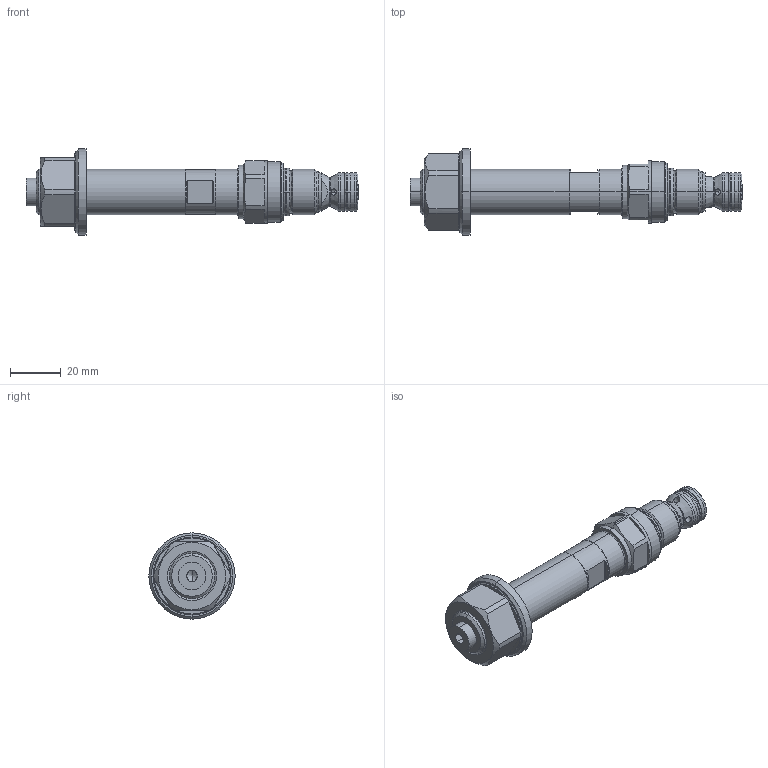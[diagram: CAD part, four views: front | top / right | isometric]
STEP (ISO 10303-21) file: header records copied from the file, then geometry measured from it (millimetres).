
FILE_DESCRIPTION (( 'STEP AP214' ), '1' );
FILE_NAME ('SDYPM18-BA-X5.STEP', '2017-03-07T14:49:52', ( '' ), ( '' ), 'SwSTEP 2.0', 'SolidWorks 2016', '' );
FILE_SCHEMA (( 'AUTOMOTIVE_DESIGN' ));
Length unit declared in the file: millimetre
Products named in the file (1): SDYPM18-BA-X5
Bounding box: 130.97 x 34 x 34 mm (x, y, z)
Volume: 40440.6 mm3; surface area: 12936.3 mm2
Topology: 5 solids, 5 shells, 252 faces, 557 edges, 339 vertices
Faces by surface type: cylinder 85, plane 79, torus 40, cone 32, bspline 16
Entity records: 10407 total; most frequent: CARTESIAN_POINT 2039, DIRECTION 1271, ORIENTED_EDGE 1110, EDGE_CURVE 555, AXIS2_PLACEMENT_3D 543, VERTEX_POINT 339, CIRCLE 306, EDGE_LOOP 286
